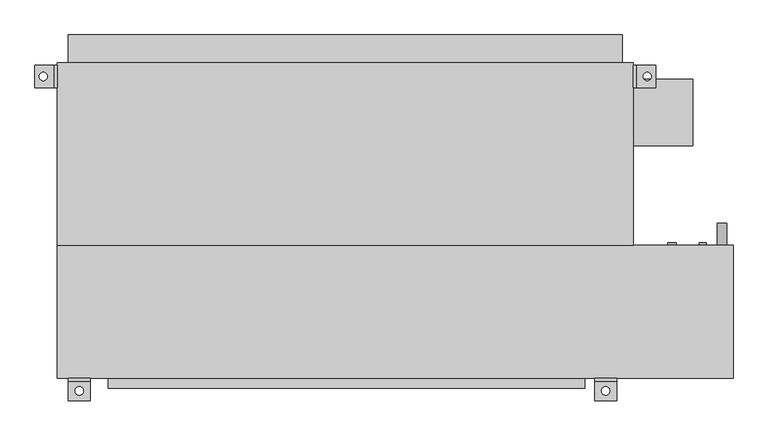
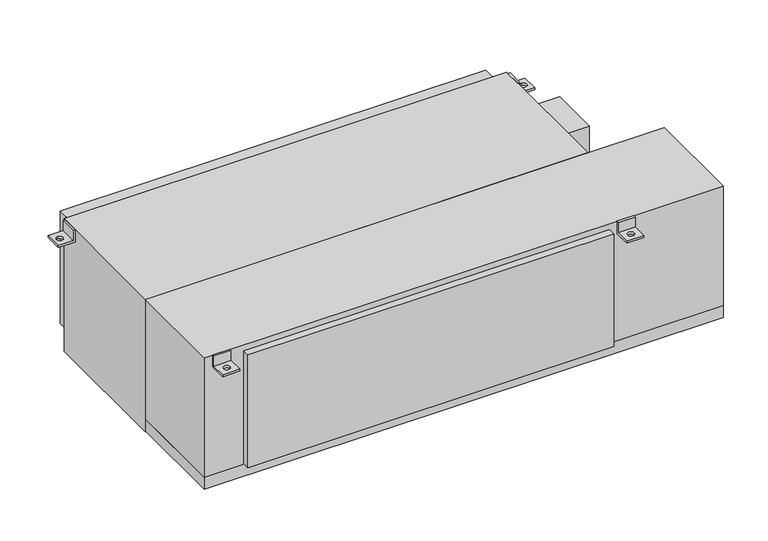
"""IFC4 building model written with IfcOpenShell, lengths in millimetres: proxy geometry, Concealed_High_Capacity_Horizontal_Fan_Coil_Unit_With_Plenum_-_42DCA_-_CARRIER_-_4-Pipe_ValveEnclosure_RH_2022 : Size 18 - 277v/60Hz/1Ph - 6/2 Coil."""

from ifc_helpers import new_model, si_unit, point, frame, frame_2d, origin, place, context, project, spatial, polyline, circle_curve, trimmed, segment, composite_curve, outline, extrude, source, transform, mapped, element, save
from ifc_brep_helpers import plane_surface, revolved_surface, advanced_brep


def mechanical_equipment_f10d80ba(model_context):
    return source(origin(), model_context, "Body", "SolidModel", [
        advanced_brep(
        [(774.7, -390.525, 0.0), (774.7, -396.875, 0.0), (774.7, -396.875, -31.75), (774.7, -441.325, -31.75), (774.7, -441.325, -38.1), (774.7, -390.525, -38.1), (723.9, -390.525, 0.0), (723.9, -390.525, -38.1), (723.9, -441.325, -38.1), (723.9, -441.325, -31.75), (723.9, -396.875, -31.75), (723.9, -396.875, 0.0), (739.775, -419.1, -31.75), (758.825, -419.1, -31.75), (758.825, -419.1, -38.1), (739.775, -419.1, -38.1)],
        [
            (0, 1),
            (1, 2),
            (2, 3),
            (3, 4),
            (4, 5),
            (5, 0),
            (6, 7),
            (7, 8),
            (8, 9),
            (9, 10),
            (10, 11),
            (11, 6),
            (0, 6),
            (11, 1),
            (10, 2),
            (9, 3),
            (12, 13, circle_curve(frame((749.3, -419.1, -31.75), z_axis=(0.0, 0.0, -1.0), x_axis=(1.0, 0.0, 0.0)), 9.525)),
            (13, 12, circle_curve(frame((749.3, -419.1, -31.75), z_axis=(0.0, 0.0, -1.0), x_axis=(1.0, 0.0, 0.0)), 9.525)),
            (8, 4),
            (7, 5),
            (14, 15, circle_curve(frame((749.3, -419.1, -38.1), z_axis=(0.0, 0.0, 1.0), x_axis=(1.0, 0.0, 0.0)), 9.525)),
            (15, 14, circle_curve(frame((749.3, -419.1, -38.1), z_axis=(0.0, 0.0, 1.0), x_axis=(1.0, 0.0, 0.0)), 9.525)),
            (12, 15),
            (14, 13),
        ],
        [
            plane_surface(frame((774.7, -396.875, 0.0), z_axis=(1.0, 0.0, 0.0), x_axis=(0.0, -1.0, 0.0))),
            plane_surface(frame((723.9, -396.875, 0.0), z_axis=(-1.0, 0.0, 0.0), x_axis=(0.0, 1.0, 0.0))),
            plane_surface(frame((774.7, -390.525, 0.0), z_axis=(0.0, 0.0, 1.0), x_axis=(-1.0, 0.0, 0.0))),
            plane_surface(frame((774.7, -396.875, 0.0), z_axis=(0.0, -1.0, 0.0), x_axis=(-1.0, 0.0, 0.0))),
            plane_surface(frame((774.7, -396.875, -31.75), z_axis=(0.0, 0.0, 1.0), x_axis=(-1.0, 0.0, 0.0))),
            plane_surface(frame((774.7, -441.325, -31.75), z_axis=(0.0, -1.0, 0.0), x_axis=(-1.0, 0.0, 0.0))),
            plane_surface(frame((774.7, -441.325, -38.1), z_axis=(0.0, 0.0, -1.0), x_axis=(-1.0, 0.0, 0.0))),
            plane_surface(frame((774.7, -390.525, -38.1), z_axis=(0.0, 1.0, 0.0), x_axis=(-1.0, 0.0, 0.0))),
            revolved_surface(polyline([(758.8249999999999, -419.1, -38.1), (758.8249999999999, -419.1, -31.75)]), (749.3, -419.1, -31.75), (0.0, 0.0, -1.0)),
        ],
        [
            (0, [[1, 2, 3, 4, 5, 6]]),
            (1, [[7, 8, 9, 10, 11, 12]]),
            (2, [[-1, 13, -12, 14]]),
            (3, [[-2, -14, -11, 15]]),
            (4, [[-3, -15, -10, 16], [17, 18]]),
            (5, [[-4, -16, -9, 19]]),
            (6, [[-5, -19, -8, 20], [21, 22]]),
            (7, [[-6, -20, -7, -13]]),
            (8, [[23, -21, 24, -17]]),
            (8, [[-23, -18, -24, -22]]),
        ],
    ),
        advanced_brep(
        [(-431.8, -390.525, -38.1), (-431.8, -390.525, 0.0), (-431.8, -396.875, 0.0), (-431.8, -396.875, -31.75), (-431.8, -441.325, -31.75), (-431.8, -441.325, -38.1), (-482.6, -390.525, -38.1), (-482.6, -441.325, -38.1), (-482.6, -441.325, -31.75), (-482.6, -396.875, -31.75), (-482.6, -396.875, 0.0), (-482.6, -390.525, 0.0), (-466.725, -419.1, -31.75), (-447.675, -419.1, -31.75), (-447.675, -419.1, -38.1), (-466.725, -419.1, -38.1)],
        [
            (0, 1),
            (1, 2),
            (2, 3),
            (3, 4),
            (4, 5),
            (5, 0),
            (6, 7),
            (7, 8),
            (8, 9),
            (9, 10),
            (10, 11),
            (11, 6),
            (0, 6),
            (11, 1),
            (10, 2),
            (9, 3),
            (8, 4),
            (12, 13, circle_curve(frame((-457.2, -419.1, -31.75), z_axis=(0.0, 0.0, -1.0), x_axis=(1.0, 0.0, 0.0)), 9.525)),
            (13, 12, circle_curve(frame((-457.2, -419.1, -31.75), z_axis=(0.0, 0.0, -1.0), x_axis=(1.0, 0.0, 0.0)), 9.525)),
            (7, 5),
            (14, 15, circle_curve(frame((-457.2, -419.1, -38.1), z_axis=(0.0, 0.0, 1.0), x_axis=(1.0, 0.0, 0.0)), 9.525)),
            (15, 14, circle_curve(frame((-457.2, -419.1, -38.1), z_axis=(0.0, 0.0, 1.0), x_axis=(1.0, 0.0, 0.0)), 9.525)),
            (12, 15),
            (14, 13),
        ],
        [
            plane_surface(frame((-431.8, -390.525, -38.1), z_axis=(1.0, 0.0, 0.0), x_axis=(0.0, 0.0, 1.0))),
            plane_surface(frame((-482.6, -390.525, -38.1), z_axis=(-1.0, 0.0, 0.0), x_axis=(0.0, 0.0, -1.0))),
            plane_surface(frame((-431.8, -390.525, -38.1), z_axis=(0.0, 1.0, 0.0), x_axis=(-1.0, 0.0, 0.0))),
            plane_surface(frame((-431.8, -390.525, 0.0), z_axis=(0.0, 0.0, 1.0), x_axis=(-1.0, 0.0, 0.0))),
            plane_surface(frame((-431.8, -396.875, 0.0), z_axis=(0.0, -1.0, 0.0), x_axis=(-1.0, 0.0, 0.0))),
            plane_surface(frame((-431.8, -396.875, -31.75), z_axis=(0.0, 0.0, 1.0), x_axis=(-1.0, 0.0, 0.0))),
            plane_surface(frame((-431.8, -441.325, -31.75), z_axis=(0.0, -1.0, 0.0), x_axis=(-1.0, 0.0, 0.0))),
            plane_surface(frame((-431.8, -441.325, -38.1), z_axis=(0.0, 0.0, -1.0), x_axis=(-1.0, 0.0, 0.0))),
            revolved_surface(polyline([(-447.675, -419.1, -38.1), (-447.675, -419.1, -31.75)]), (-457.2, -419.1, -31.75), (0.0, 0.0, -1.0)),
        ],
        [
            (0, [[1, 2, 3, 4, 5, 6]]),
            (1, [[7, 8, 9, 10, 11, 12]]),
            (2, [[-1, 13, -12, 14]]),
            (3, [[-2, -14, -11, 15]]),
            (4, [[-3, -15, -10, 16]]),
            (5, [[-4, -16, -9, 17], [18, 19]]),
            (6, [[-5, -17, -8, 20]]),
            (7, [[-6, -20, -7, -13], [21, 22]]),
            (8, [[23, -21, 24, -18]]),
            (8, [[-23, -19, -24, -22]]),
        ],
    ),
        extrude(outline(composite_curve([segment(trimmed(circle_curve(frame_2d((-400.05, 1016.0)), 11.1125), [point((-400.05, 1004.8875))], [point((-400.05, 1027.1125))], False, "CARTESIAN"), True, "CONTINUOUS"), segment(trimmed(circle_curve(frame_2d((-400.05, 1016.0)), 11.1125), [point((-400.05, 1027.1125))], [point((-400.05, 1004.8875))], False, "CARTESIAN"), True, "CONTINUOUS")], self_intersect=False)), frame((0.0, -85.725, 0.0), z_axis=(0.0, 1.0, 0.0), x_axis=(0.0, 0.0, 1.0)), (0.0, 0.0, 1.0), 50.8),
        extrude(outline(composite_curve([segment(trimmed(circle_curve(frame_2d((-44.45, 901.7)), 9.525), [point((-44.45, 892.175))], [point((-44.45, 911.225))], False, "CARTESIAN"), True, "CONTINUOUS"), segment(trimmed(circle_curve(frame_2d((-44.45, 901.7)), 9.525), [point((-44.45, 911.225))], [point((-44.45, 892.175))], False, "CARTESIAN"), True, "CONTINUOUS")], self_intersect=False)), frame((0.0, -85.725, 0.0), z_axis=(0.0, 1.0, 0.0), x_axis=(0.0, 0.0, 1.0)), (0.0, 0.0, 1.0), 6.35),
        extrude(outline(composite_curve([segment(trimmed(circle_curve(frame_2d((-276.225, 901.7)), 9.525), [point((-276.225, 892.175))], [point((-276.225, 911.225))], False, "CARTESIAN"), True, "CONTINUOUS"), segment(trimmed(circle_curve(frame_2d((-276.225, 901.7)), 9.525), [point((-276.225, 911.225))], [point((-276.225, 892.175))], False, "CARTESIAN"), True, "CONTINUOUS")], self_intersect=False)), frame((0.0, -85.725, 0.0), z_axis=(0.0, 1.0, 0.0), x_axis=(0.0, 0.0, 1.0)), (0.0, 0.0, 1.0), 6.35),
        extrude(outline(composite_curve([segment(trimmed(circle_curve(frame_2d((-69.85, 971.55)), 7.9375), [point((-69.85, 963.6125))], [point((-69.85, 979.4875))], False, "CARTESIAN"), True, "CONTINUOUS"), segment(trimmed(circle_curve(frame_2d((-69.85, 971.55)), 7.9375), [point((-69.85, 979.4875))], [point((-69.85, 963.6125))], False, "CARTESIAN"), True, "CONTINUOUS")], self_intersect=False)), frame((0.0, -85.725, 0.0), z_axis=(0.0, 1.0, 0.0), x_axis=(0.0, 0.0, 1.0)), (0.0, 0.0, 1.0), 6.35),
        extrude(outline(composite_curve([segment(trimmed(circle_curve(frame_2d((-285.75, 971.55)), 7.9375), [point((-285.75, 963.6125))], [point((-285.75, 979.4875))], False, "CARTESIAN"), True, "CONTINUOUS"), segment(trimmed(circle_curve(frame_2d((-285.75, 971.55)), 7.9375), [point((-285.75, 979.4875))], [point((-285.75, 963.6125))], False, "CARTESIAN"), True, "CONTINUOUS")], self_intersect=False)), frame((0.0, -85.725, 0.0), z_axis=(0.0, 1.0, 0.0), x_axis=(0.0, 0.0, 1.0)), (0.0, 0.0, 1.0), 6.35),
        advanced_brep(
        [(-508.0, 327.025, -38.1), (-558.8, 327.025, -38.1), (-558.8, 327.025, -31.75), (-514.35, 327.025, -31.75), (-514.35, 327.025, 0.0), (-508.0, 327.025, 0.0), (-508.0, 276.225, -38.1), (-508.0, 276.225, 0.0), (-514.35, 276.225, 0.0), (-514.35, 276.225, -31.75), (-558.8, 276.225, -31.75), (-558.8, 276.225, -38.1), (-539.75, 292.1, -38.1), (-539.75, 311.15, -38.1), (-539.75, 311.15, -31.75), (-539.75, 292.1, -31.75)],
        [
            (0, 1),
            (1, 2),
            (2, 3),
            (3, 4),
            (4, 5),
            (5, 0),
            (6, 7),
            (7, 8),
            (8, 9),
            (9, 10),
            (10, 11),
            (11, 6),
            (0, 6),
            (11, 1),
            (12, 13, circle_curve(frame((-539.75, 301.625, -38.1), z_axis=(0.0, 0.0, 1.0), x_axis=(0.0, -1.0, 0.0)), 9.525)),
            (13, 12, circle_curve(frame((-539.75, 301.625, -38.1), z_axis=(0.0, 0.0, 1.0), x_axis=(0.0, -1.0, 0.0)), 9.525)),
            (10, 2),
            (9, 3),
            (14, 15, circle_curve(frame((-539.75, 301.625, -31.75), z_axis=(0.0, 0.0, -1.0), x_axis=(0.0, -1.0, 0.0)), 9.525)),
            (15, 14, circle_curve(frame((-539.75, 301.625, -31.75), z_axis=(0.0, 0.0, -1.0), x_axis=(0.0, -1.0, 0.0)), 9.525)),
            (8, 4),
            (7, 5),
            (14, 13),
            (12, 15),
        ],
        [
            plane_surface(frame((-508.0, 327.025, -38.1), z_axis=(0.0, 1.0, 0.0), x_axis=(-1.0, 0.0, 0.0))),
            plane_surface(frame((-508.0, 276.225, -38.1), z_axis=(0.0, -1.0, 0.0), x_axis=(1.0, 0.0, 0.0))),
            plane_surface(frame((-508.0, 327.025, -38.1), z_axis=(0.0, 0.0, -1.0), x_axis=(0.0, -1.0, 0.0))),
            plane_surface(frame((-558.8, 327.025, -38.1), z_axis=(-1.0, 0.0, 0.0), x_axis=(0.0, -1.0, 0.0))),
            plane_surface(frame((-558.8, 327.025, -31.75), z_axis=(0.0, 0.0, 1.0), x_axis=(0.0, -1.0, 0.0))),
            plane_surface(frame((-514.35, 327.025, -31.75), z_axis=(-1.0, 0.0, 0.0), x_axis=(0.0, -1.0, 0.0))),
            plane_surface(frame((-514.35, 327.025, 0.0), z_axis=(0.0, 0.0, 1.0), x_axis=(0.0, -1.0, 0.0))),
            plane_surface(frame((-508.0, 327.025, 0.0), z_axis=(1.0, 0.0, 0.0), x_axis=(0.0, -1.0, 0.0))),
            revolved_surface(polyline([(-539.75, 292.1, -38.1), (-539.75, 292.1, -31.75)]), (-539.75, 301.625, -31.75), (0.0, 0.0, -1.0)),
        ],
        [
            (0, [[1, 2, 3, 4, 5, 6]]),
            (1, [[7, 8, 9, 10, 11, 12]]),
            (2, [[-1, 13, -12, 14], [15, 16]]),
            (3, [[-2, -14, -11, 17]]),
            (4, [[-3, -17, -10, 18], [19, 20]]),
            (5, [[-4, -18, -9, 21]]),
            (6, [[-5, -21, -8, 22]]),
            (7, [[-6, -22, -7, -13]]),
            (8, [[23, -15, 24, -19]]),
            (8, [[-23, -20, -24, -16]]),
        ],
    ),
        advanced_brep(
        [(812.8, 327.025, -38.1), (812.8, 327.025, 0.0), (819.15, 327.025, 0.0), (819.15, 327.025, -31.75), (863.6, 327.025, -31.75), (863.6, 327.025, -38.1), (812.8, 276.225, -38.1), (863.6, 276.225, -38.1), (863.6, 276.225, -31.75), (819.15, 276.225, -31.75), (819.15, 276.225, 0.0), (812.8, 276.225, 0.0), (844.55, 311.15, -31.75), (844.55, 292.1, -31.75), (844.55, 292.1, -38.1), (844.55, 311.15, -38.1)],
        [
            (0, 1),
            (1, 2),
            (2, 3),
            (3, 4),
            (4, 5),
            (5, 0),
            (6, 7),
            (7, 8),
            (8, 9),
            (9, 10),
            (10, 11),
            (11, 6),
            (0, 6),
            (11, 1),
            (10, 2),
            (9, 3),
            (8, 4),
            (12, 13, circle_curve(frame((844.55, 301.625, -31.75), z_axis=(0.0, 0.0, -1.0), x_axis=(0.0, -1.0, 0.0)), 9.525)),
            (13, 12, circle_curve(frame((844.55, 301.625, -31.75), z_axis=(0.0, 0.0, -1.0), x_axis=(0.0, -1.0, 0.0)), 9.525)),
            (7, 5),
            (14, 15, circle_curve(frame((844.55, 301.625, -38.1), z_axis=(0.0, 0.0, 1.0), x_axis=(0.0, -1.0, 0.0)), 9.525)),
            (15, 14, circle_curve(frame((844.55, 301.625, -38.1), z_axis=(0.0, 0.0, 1.0), x_axis=(0.0, -1.0, 0.0)), 9.525)),
            (12, 15),
            (14, 13),
        ],
        [
            plane_surface(frame((-508.0, 327.025, -38.1), z_axis=(0.0, 1.0, 0.0), x_axis=(-1.0, 0.0, 0.0))),
            plane_surface(frame((-508.0, 276.225, -38.1), z_axis=(0.0, -1.0, 0.0), x_axis=(1.0, 0.0, 0.0))),
            plane_surface(frame((812.8, 327.025, -38.1), z_axis=(-1.0, 0.0, 0.0), x_axis=(0.0, -1.0, 0.0))),
            plane_surface(frame((812.8, 327.025, 0.0), z_axis=(0.0, 0.0, 1.0), x_axis=(0.0, -1.0, 0.0))),
            plane_surface(frame((819.15, 327.025, 0.0), z_axis=(1.0, 0.0, 0.0), x_axis=(0.0, -1.0, 0.0))),
            plane_surface(frame((819.15, 327.025, -31.75), z_axis=(0.0, 0.0, 1.0), x_axis=(0.0, -1.0, 0.0))),
            plane_surface(frame((863.6, 327.025, -31.75), z_axis=(1.0, 0.0, 0.0), x_axis=(0.0, -1.0, 0.0))),
            plane_surface(frame((863.6, 327.025, -38.1), z_axis=(0.0, 0.0, -1.0), x_axis=(0.0, -1.0, 0.0))),
            revolved_surface(polyline([(844.55, 292.1, -38.1), (844.55, 292.1, -31.75)]), (844.55, 301.625, -31.75), (0.0, 0.0, -1.0)),
        ],
        [
            (0, [[1, 2, 3, 4, 5, 6]]),
            (1, [[7, 8, 9, 10, 11, 12]]),
            (2, [[-1, 13, -12, 14]]),
            (3, [[-2, -14, -11, 15]]),
            (4, [[-3, -15, -10, 16]]),
            (5, [[-4, -16, -9, 17], [18, 19]]),
            (6, [[-5, -17, -8, 20]]),
            (7, [[-6, -20, -7, -13], [21, 22]]),
            (8, [[23, -21, 24, -18]]),
            (8, [[-23, -19, -24, -22]]),
        ],
    ),
        extrude(outline(polyline([(-482.6, 396.875), (787.4, 396.875), (787.4, 333.375), (-482.6, 333.375), (-482.6, 396.875)])), frame((0.0, 0.0, -377.825), z_axis=(0.0, 0.0, 1.0), x_axis=(1.0, 0.0, 0.0)), (0.0, 0.0, 1.0), 355.6),
        extrude(outline(polyline([(949.325, 295.275), (949.325, 142.875), (812.8, 142.875), (812.8, 295.275), (949.325, 295.275)])), frame((0.0, 0.0, -254.0), z_axis=(0.0, 0.0, 1.0), x_axis=(1.0, 0.0, 0.0)), (0.0, 0.0, 1.0), 152.4),
        extrude(outline(polyline([(701.675, -412.75), (-390.525, -412.75), (-390.525, -390.525), (701.675, -390.525), (701.675, -412.75)])), frame((0.0, 0.0, -374.65), z_axis=(0.0, 0.0, 1.0), x_axis=(1.0, 0.0, 0.0)), (0.0, 0.0, 1.0), 355.6),
        extrude(outline(polyline([(812.8, -85.725), (-508.0, -85.725), (-508.0, 333.375), (812.8, 333.375), (812.8, -85.725)])), frame((0.0, 0.0, -419.1), z_axis=(0.0, 0.0, 1.0), x_axis=(1.0, 0.0, 0.0)), (0.0, 0.0, 1.0), 419.1),
        extrude(outline(polyline([(1041.4, -85.725), (1041.4, -390.525), (-508.0, -390.525), (-508.0, -85.725), (1041.4, -85.725)])), frame((0.0, 0.0, -377.825), z_axis=(0.0, 0.0, 1.0), x_axis=(1.0, 0.0, 0.0)), (0.0, 0.0, 1.0), 377.825),
        extrude(outline(polyline([(1041.4, -85.725), (1041.4, -390.525), (-508.0, -390.525), (-508.0, -85.725), (1041.4, -85.725)])), frame((0.0, 0.0, -415.925), z_axis=(0.0, 0.0, 1.0), x_axis=(1.0, 0.0, 0.0)), (0.0, 0.0, 1.0), 38.1),
    ])


if __name__ == "__main__":
    model = new_model("IFC4")
    model_context = context("Model", 3, world=origin())
    ifc_project = project(units=[si_unit("LENGTHUNIT", "METRE", prefix="MILLI")], contexts=[model_context])
    site = spatial("IfcSite", under=ifc_project)
    building = spatial("IfcBuilding", under=site)
    placement = place(None, origin())
    mechanical_equipment_shape = mechanical_equipment_f10d80ba(model_context)
    element("IfcBuildingElementProxy", 1, Name="Concealed_High_Capacity_Horizontal_Fan_Coil_Unit_With_Plenum_-_42DCA_-_CARRIER_-_4-Pipe_ValveEnclosure_RH_2022 : Size 18 - 277v/60Hz/1Ph - 6/2 Coil", ObjectType="Concealed_High_Capacity_Horizontal_Fan_Coil_Unit_With_Plenum_-_42DCA_-_CARRIER_-_4-Pipe_ValveEnclosure_RH_2022 : Size 18 - 277v/60Hz/1Ph - 6/2 Coil", at=placement, inside=building, context=model_context, shape_type="MappedRepresentation", body=[
        mapped(mechanical_equipment_shape, transform((0.0, 0.0, 0.0), x_axis=(1.0, 0.0, 0.0), y_axis=(0.0, 1.0, 0.0), z_axis=(0.0, 0.0, 1.0))),
    ])
    save(model, "model.ifc")
